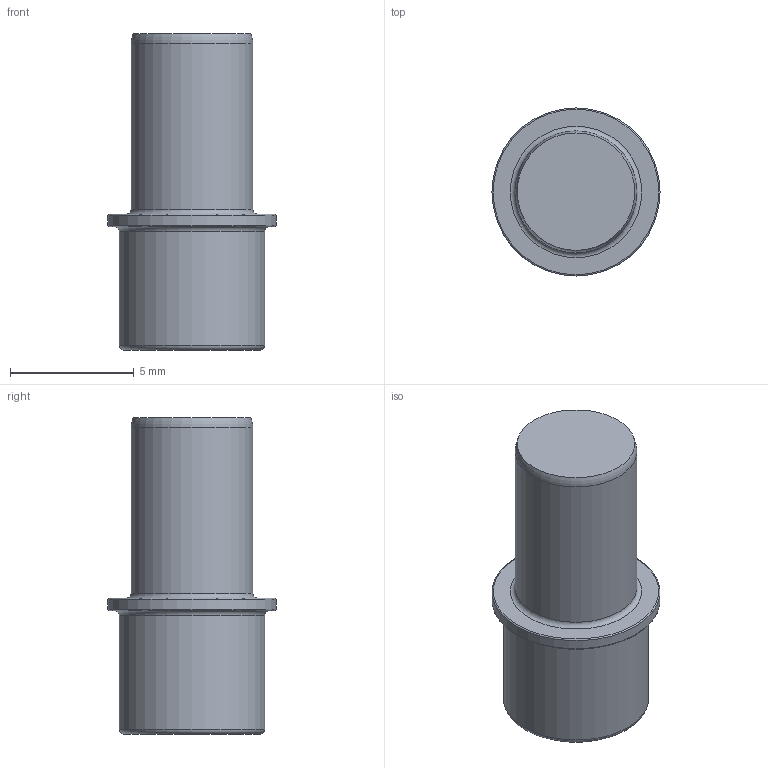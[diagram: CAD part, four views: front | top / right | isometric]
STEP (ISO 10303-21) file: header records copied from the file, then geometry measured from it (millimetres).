
FILE_DESCRIPTION(/* description */ (''),/* implementation_level */ '2;1');
FILE_NAME(/* name */ 'Cabineo X Bodentrger 5.stp',/* time_stamp */ '2023-11-20T13:47:10+01:00',/* author */ ('simond'),/* organization */ (''),/* preprocessor_version */ 'ST-DEVELOPER v19.2',/* originating_system */ 'Autodesk Inventor 2023',/* authorisation */ '');
FILE_SCHEMA (('AUTOMOTIVE_DESIGN { 1 0 10303 214 3 1 1 }'));
Length unit declared in the file: millimetre
Products named in the file (1): Cabineo X Bodenträger Ø5
Bounding box: 6.8 x 6.8 x 12.8 mm (x, y, z)
Volume: 292.7 mm3; surface area: 281.9 mm2
Topology: 1 solids, 1 shells, 13 faces, 27 edges, 18 vertices
Faces by surface type: torus 6, plane 4, cylinder 3
Full cylindrical faces by diameter (mm): 4.92 x1, 5.88 x1, 6.8 x1
Entity records: 408 total; most frequent: DIRECTION 79, CARTESIAN_POINT 59, ORIENTED_EDGE 54, AXIS2_PLACEMENT_3D 38, EDGE_CURVE 27, CIRCLE 24, VERTEX_POINT 18, EDGE_LOOP 15
